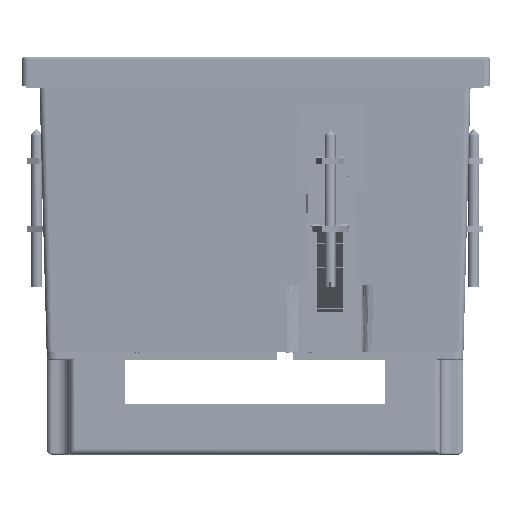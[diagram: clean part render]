
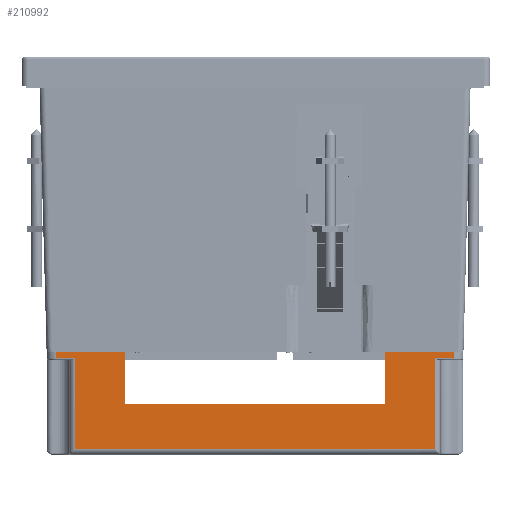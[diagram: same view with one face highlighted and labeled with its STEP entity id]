
A CAD part, front view. The second image highlights one B-rep face of the part: STEP entity #210992.
In plain terms, the highlighted planar face has unit normal (0, -1, 0) as drawn and (1, 0, 0) by its records, which use the part's own axes.
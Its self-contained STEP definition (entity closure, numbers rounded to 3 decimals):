
#28 = LINE ( 'NONE', #99172, #63324 ) ;
#5882 = DIRECTION ( 'NONE',  ( 0., -1., 0. ) ) ;
#12796 = LINE ( 'NONE', #91392, #219952 ) ;
#13998 = ORIENTED_EDGE ( 'NONE', *, *, #129621, .T. ) ;
#15003 = LINE ( 'NONE', #168398, #217772 ) ;
#16338 = VECTOR ( 'NONE', #236566, 1000. ) ;
#18926 = CARTESIAN_POINT ( 'NONE',  ( 53., -50.5, 0. ) ) ;
#21352 = LINE ( 'NONE', #76801, #16338 ) ;
#21550 = EDGE_CURVE ( 'NONE', #29883, #71881, #224666, .T. ) ;
#22643 = LINE ( 'NONE', #200476, #83999 ) ;
#24594 = AXIS2_PLACEMENT_3D ( 'NONE', #90289, #172694, #190758 ) ;
#27160 = ORIENTED_EDGE ( 'NONE', *, *, #242991, .F. ) ;
#27614 = LINE ( 'NONE', #242783, #64257 ) ;
#29883 = VERTEX_POINT ( 'NONE', #123513 ) ;
#32026 = VERTEX_POINT ( 'NONE', #89103 ) ;
#44737 = VECTOR ( 'NONE', #172992, 1000. ) ;
#46925 = ORIENTED_EDGE ( 'NONE', *, *, #147094, .T. ) ;
#48565 = CARTESIAN_POINT ( 'NONE',  ( 53., -45.668, 24.7 ) ) ;
#59033 = LINE ( 'NONE', #252357, #235746 ) ;
#60218 = VERTEX_POINT ( 'NONE', #251959 ) ;
#63324 = VECTOR ( 'NONE', #175256, 1000. ) ;
#64257 = VECTOR ( 'NONE', #141064, 1000. ) ;
#69188 = DIRECTION ( 'NONE',  ( 0., 0., 1. ) ) ;
#71881 = VERTEX_POINT ( 'NONE', #107836 ) ;
#72469 = EDGE_CURVE ( 'NONE', #218732, #78226, #12796, .T. ) ;
#72876 = ORIENTED_EDGE ( 'NONE', *, *, #172012, .F. ) ;
#76801 = CARTESIAN_POINT ( 'NONE',  ( 53., -50.5, 1.66 ) ) ;
#78226 = VERTEX_POINT ( 'NONE', #18926 ) ;
#80028 = EDGE_LOOP ( 'NONE', ( #112546, #176765, #115912, #93831, #83714, #217284, #27160, #115275, #72876, #46925, #178009, #13998 ) ) ;
#83714 = ORIENTED_EDGE ( 'NONE', *, *, #244641, .F. ) ;
#83999 = VECTOR ( 'NONE', #5882, 1000. ) ;
#86431 = EDGE_CURVE ( 'NONE', #118927, #91911, #15003, .T. ) ;
#86932 = LINE ( 'NONE', #244102, #215566 ) ;
#89103 = CARTESIAN_POINT ( 'NONE',  ( 53., -45.668, 1.66 ) ) ;
#90289 = CARTESIAN_POINT ( 'NONE',  ( 53., 50.5, 26.2 ) ) ;
#91392 = CARTESIAN_POINT ( 'NONE',  ( 53., -50.5, 26.2 ) ) ;
#91911 = VERTEX_POINT ( 'NONE', #150122 ) ;
#93831 = ORIENTED_EDGE ( 'NONE', *, *, #145489, .T. ) ;
#99172 = CARTESIAN_POINT ( 'NONE',  ( 53., 50.5, 26.2 ) ) ;
#101831 = CARTESIAN_POINT ( 'NONE',  ( 53., 50.5, 0. ) ) ;
#102878 = CARTESIAN_POINT ( 'NONE',  ( 53., 33.15, 0. ) ) ;
#107836 = CARTESIAN_POINT ( 'NONE',  ( 53., -33.15, 13.4 ) ) ;
#112440 = LINE ( 'NONE', #151141, #44737 ) ;
#112546 = ORIENTED_EDGE ( 'NONE', *, *, #228676, .T. ) ;
#115275 = ORIENTED_EDGE ( 'NONE', *, *, #186220, .T. ) ;
#115912 = ORIENTED_EDGE ( 'NONE', *, *, #72469, .T. ) ;
#117797 = VERTEX_POINT ( 'NONE', #48565 ) ;
#118927 = VERTEX_POINT ( 'NONE', #191173 ) ;
#121158 = VERTEX_POINT ( 'NONE', #102878 ) ;
#121298 = CARTESIAN_POINT ( 'NONE',  ( 53., -50.5, 1.66 ) ) ;
#123513 = CARTESIAN_POINT ( 'NONE',  ( 53., 33.15, 13.4 ) ) ;
#123718 = EDGE_CURVE ( 'NONE', #32026, #218732, #21352, .T. ) ;
#129495 = CARTESIAN_POINT ( 'NONE',  ( 53., 50.5, 1.66 ) ) ;
#129621 = EDGE_CURVE ( 'NONE', #91911, #117797, #112440, .T. ) ;
#141064 = DIRECTION ( 'NONE',  ( 0., 0., 1. ) ) ;
#141814 = LINE ( 'NONE', #101831, #238943 ) ;
#145489 = EDGE_CURVE ( 'NONE', #78226, #60218, #86932, .T. ) ;
#146203 = DIRECTION ( 'NONE',  ( 0., 1., 0. ) ) ;
#147094 = EDGE_CURVE ( 'NONE', #153914, #118927, #22643, .T. ) ;
#149555 = PLANE ( 'NONE',  #24594 ) ;
#150122 = CARTESIAN_POINT ( 'NONE',  ( 53., 45.668, 24.7 ) ) ;
#151141 = CARTESIAN_POINT ( 'NONE',  ( 53., 50.5, 24.7 ) ) ;
#153914 = VERTEX_POINT ( 'NONE', #129495 ) ;
#160404 = CARTESIAN_POINT ( 'NONE',  ( 53., -45.668, 26.2 ) ) ;
#162793 = DIRECTION ( 'NONE',  ( 0., -1., 0. ) ) ;
#164240 = LINE ( 'NONE', #160404, #186352 ) ;
#168398 = CARTESIAN_POINT ( 'NONE',  ( 53., 45.668, 26.2 ) ) ;
#170041 = DIRECTION ( 'NONE',  ( 0., 0., -1. ) ) ;
#172012 = EDGE_CURVE ( 'NONE', #153914, #194451, #28, .T. ) ;
#172694 = DIRECTION ( 'NONE',  ( -1., 0., 0. ) ) ;
#172992 = DIRECTION ( 'NONE',  ( 0., -1., 0. ) ) ;
#175256 = DIRECTION ( 'NONE',  ( 0., 0., -1. ) ) ;
#176765 = ORIENTED_EDGE ( 'NONE', *, *, #123718, .T. ) ;
#178009 = ORIENTED_EDGE ( 'NONE', *, *, #86431, .T. ) ;
#184417 = FACE_OUTER_BOUND ( 'NONE', #80028, .T. ) ;
#186220 = EDGE_CURVE ( 'NONE', #121158, #194451, #141814, .T. ) ;
#186352 = VECTOR ( 'NONE', #239038, 1000. ) ;
#190758 = DIRECTION ( 'NONE',  ( 0., -1., 0. ) ) ;
#191173 = CARTESIAN_POINT ( 'NONE',  ( 53., 45.668, 1.66 ) ) ;
#194382 = DIRECTION ( 'NONE',  ( 0., 0., -1. ) ) ;
#194451 = VERTEX_POINT ( 'NONE', #199827 ) ;
#195641 = VECTOR ( 'NONE', #162793, 1000. ) ;
#199827 = CARTESIAN_POINT ( 'NONE',  ( 53., 50.5, 0. ) ) ;
#200476 = CARTESIAN_POINT ( 'NONE',  ( 53., 45.668, 1.66 ) ) ;
#210992 = ADVANCED_FACE ( 'NONE', ( #184417 ), #149555, .F. ) ;
#215566 = VECTOR ( 'NONE', #146203, 1000. ) ;
#217284 = ORIENTED_EDGE ( 'NONE', *, *, #21550, .F. ) ;
#217772 = VECTOR ( 'NONE', #69188, 1000. ) ;
#218732 = VERTEX_POINT ( 'NONE', #121298 ) ;
#219952 = VECTOR ( 'NONE', #170041, 1000. ) ;
#222124 = CARTESIAN_POINT ( 'NONE',  ( 53., -33.15, 13.4 ) ) ;
#224666 = LINE ( 'NONE', #222124, #195641 ) ;
#228676 = EDGE_CURVE ( 'NONE', #117797, #32026, #164240, .T. ) ;
#235746 = VECTOR ( 'NONE', #194382, 1000. ) ;
#236566 = DIRECTION ( 'NONE',  ( 0., -1., 0. ) ) ;
#238943 = VECTOR ( 'NONE', #239733, 1000. ) ;
#239038 = DIRECTION ( 'NONE',  ( 0., 0., -1. ) ) ;
#239733 = DIRECTION ( 'NONE',  ( 0., 1., 0. ) ) ;
#242783 = CARTESIAN_POINT ( 'NONE',  ( 53., 33.15, 13.4 ) ) ;
#242991 = EDGE_CURVE ( 'NONE', #121158, #29883, #27614, .T. ) ;
#244102 = CARTESIAN_POINT ( 'NONE',  ( 53., 50.5, 0. ) ) ;
#244641 = EDGE_CURVE ( 'NONE', #71881, #60218, #59033, .T. ) ;
#251959 = CARTESIAN_POINT ( 'NONE',  ( 53., -33.15, 0. ) ) ;
#252357 = CARTESIAN_POINT ( 'NONE',  ( 53., -33.15, 13.4 ) ) ;
